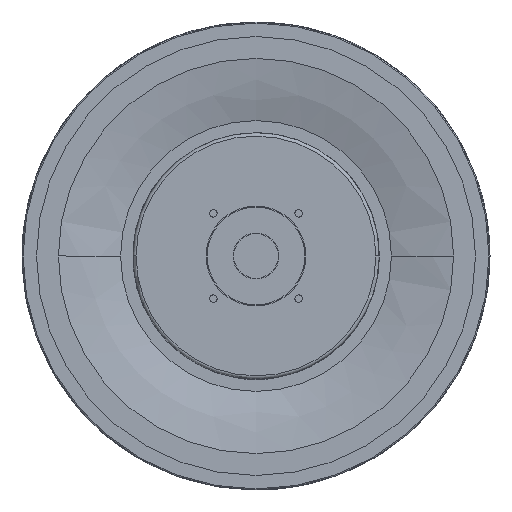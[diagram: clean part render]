
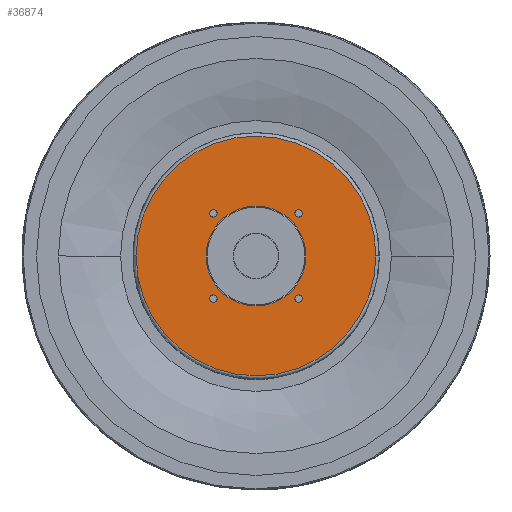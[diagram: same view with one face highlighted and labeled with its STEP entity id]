
A CAD part, front view. The second image highlights one B-rep face of the part: STEP entity #36874.
In plain terms, the highlighted planar face has unit normal (0, -1, 0).
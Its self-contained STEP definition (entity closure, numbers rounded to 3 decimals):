
#9046=CARTESIAN_POINT('',(0.,0.,0.));
#9047=DIRECTION('',(0.,-1.,0.));
#9048=DIRECTION('',(1.,0.,0.));
#9049=AXIS2_PLACEMENT_3D('',#9046,#9047,#9048);
#9056=CARTESIAN_POINT('',(0.,0.,0.));
#9057=DIRECTION('',(0.,-1.,0.));
#9058=DIRECTION('',(-1.,0.,0.));
#9059=AXIS2_PLACEMENT_3D('',#9056,#9057,#9058);
#9130=CARTESIAN_POINT('',(0.,0.,0.));
#9131=DIRECTION('',(0.,1.,0.));
#9132=DIRECTION('',(1.,0.,0.));
#9133=AXIS2_PLACEMENT_3D('',#9130,#9131,#9132);
#9135=CARTESIAN_POINT('',(0.,0.,0.));
#9136=DIRECTION('',(0.,1.,0.));
#9137=DIRECTION('',(-1.,0.,0.));
#9138=AXIS2_PLACEMENT_3D('',#9135,#9136,#9137);
#9140=CARTESIAN_POINT('',(-20.506,0.,-20.506));
#9141=DIRECTION('',(0.,-1.,0.));
#9142=DIRECTION('',(0.,0.,-1.));
#9143=AXIS2_PLACEMENT_3D('',#9140,#9141,#9142);
#9145=CARTESIAN_POINT('',(-20.506,0.,-20.506));
#9146=DIRECTION('',(0.,-1.,0.));
#9147=DIRECTION('',(0.,0.,1.));
#9148=AXIS2_PLACEMENT_3D('',#9145,#9146,#9147);
#9150=CARTESIAN_POINT('',(20.506,0.,-20.506));
#9151=DIRECTION('',(0.,-1.,0.));
#9152=DIRECTION('',(1.,0.,0.));
#9153=AXIS2_PLACEMENT_3D('',#9150,#9151,#9152);
#9155=CARTESIAN_POINT('',(20.506,0.,-20.506));
#9156=DIRECTION('',(0.,-1.,0.));
#9157=DIRECTION('',(-1.,0.,0.));
#9158=AXIS2_PLACEMENT_3D('',#9155,#9156,#9157);
#9160=CARTESIAN_POINT('',(20.506,0.,20.506));
#9161=DIRECTION('',(0.,-1.,0.));
#9162=DIRECTION('',(0.,0.,1.));
#9163=AXIS2_PLACEMENT_3D('',#9160,#9161,#9162);
#9165=CARTESIAN_POINT('',(20.506,0.,20.506));
#9166=DIRECTION('',(0.,-1.,0.));
#9167=DIRECTION('',(0.,0.,-1.));
#9168=AXIS2_PLACEMENT_3D('',#9165,#9166,#9167);
#9170=CARTESIAN_POINT('',(-20.506,0.,20.506));
#9171=DIRECTION('',(0.,-1.,0.));
#9172=DIRECTION('',(-1.,0.,0.));
#9173=AXIS2_PLACEMENT_3D('',#9170,#9171,#9172);
#9175=CARTESIAN_POINT('',(-20.506,0.,20.506));
#9176=DIRECTION('',(0.,-1.,0.));
#9177=DIRECTION('',(1.,0.,0.));
#9178=AXIS2_PLACEMENT_3D('',#9175,#9176,#9177);
#9180=CARTESIAN_POINT('',(0.,0.,0.));
#9181=DIRECTION('',(0.,-1.,0.));
#9182=DIRECTION('',(1.,0.,0.));
#9183=AXIS2_PLACEMENT_3D('',#9180,#9181,#9182);
#9185=CARTESIAN_POINT('',(0.,0.,0.));
#9186=DIRECTION('',(0.,-1.,0.));
#9187=DIRECTION('',(-1.,0.,0.));
#9188=AXIS2_PLACEMENT_3D('',#9185,#9186,#9187);
#13653=CARTESIAN_POINT('',(-22.306,0.,20.506));
#13654=VERTEX_POINT('',#13653);
#13659=CARTESIAN_POINT('',(-20.506,0.,-18.706));
#13660=VERTEX_POINT('',#13659);
#13661=CARTESIAN_POINT('',(-20.506,0.,-22.306));
#13662=VERTEX_POINT('',#13661);
#13663=CARTESIAN_POINT('',(57.632,0.,0.));
#13664=CARTESIAN_POINT('',(-57.632,0.,
-0.252));
#13665=VERTEX_POINT('',#13663);
#13666=VERTEX_POINT('',#13664);
#13667=CARTESIAN_POINT('',(-57.632,0.,
0.));
#13668=CARTESIAN_POINT('',(57.632,0.,
0.252));
#13669=VERTEX_POINT('',#13667);
#13670=VERTEX_POINT('',#13668);
#13671=CARTESIAN_POINT('',(22.306,0.,-20.506));
#13672=CARTESIAN_POINT('',(18.706,0.,-20.506));
#13673=VERTEX_POINT('',#13671);
#13674=VERTEX_POINT('',#13672);
#13675=CARTESIAN_POINT('',(20.506,0.,22.306));
#13676=CARTESIAN_POINT('',(20.506,0.,18.706));
#13677=VERTEX_POINT('',#13675);
#13678=VERTEX_POINT('',#13676);
#13679=CARTESIAN_POINT('',(-18.706,0.,20.506));
#13680=VERTEX_POINT('',#13679);
#13681=CARTESIAN_POINT('',(24.,0.,0.));
#13682=CARTESIAN_POINT('',(-24.,0.,0.));
#13683=VERTEX_POINT('',#13681);
#13684=VERTEX_POINT('',#13682);
#36833=CARTESIAN_POINT('',(0.,0.,0.));
#36834=DIRECTION('',(0.,1.,0.));
#36835=DIRECTION('',(-1.,0.,0.));
#36836=AXIS2_PLACEMENT_3D('',#36833,#36834,#36835);
#36837=PLANE('',#36836);
#36838=ORIENTED_EDGE('',*,*,#36205,.T.);
#36839=ORIENTED_EDGE('',*,*,#36203,.F.);
#36840=ORIENTED_EDGE('',*,*,#36182,.T.);
#36841=ORIENTED_EDGE('',*,*,#36180,.F.);
#36842=EDGE_LOOP('',(#36838,#36839,#36840,#36841));
#36843=FACE_OUTER_BOUND('',#36842,.F.);
#36845=ORIENTED_EDGE('',*,*,#36844,.T.);
#36847=ORIENTED_EDGE('',*,*,#36846,.T.);
#36848=EDGE_LOOP('',(#36845,#36847));
#36849=FACE_BOUND('',#36848,.F.);
#36851=ORIENTED_EDGE('',*,*,#36850,.T.);
#36853=ORIENTED_EDGE('',*,*,#36852,.T.);
#36854=EDGE_LOOP('',(#36851,#36853));
#36855=FACE_BOUND('',#36854,.F.);
#36857=ORIENTED_EDGE('',*,*,#36856,.T.);
#36859=ORIENTED_EDGE('',*,*,#36858,.T.);
#36860=EDGE_LOOP('',(#36857,#36859));
#36861=FACE_BOUND('',#36860,.F.);
#36863=ORIENTED_EDGE('',*,*,#36862,.T.);
#36865=ORIENTED_EDGE('',*,*,#36864,.T.);
#36866=EDGE_LOOP('',(#36863,#36865));
#36867=FACE_BOUND('',#36866,.F.);
#36869=ORIENTED_EDGE('',*,*,#36868,.T.);
#36871=ORIENTED_EDGE('',*,*,#36870,.T.);
#36872=EDGE_LOOP('',(#36869,#36871));
#36873=FACE_BOUND('',#36872,.F.);
#36874=ADVANCED_FACE('',(#36843,#36849,#36855,#36861,#36867,#36873),#36837,.F.);
#9050=CIRCLE('',#9049,57.632);
#9060=CIRCLE('',#9059,57.632);
#9134=CIRCLE('',#9133,57.632);
#9139=CIRCLE('',#9138,57.632);
#9144=CIRCLE('',#9143,1.8);
#9149=CIRCLE('',#9148,1.8);
#9154=CIRCLE('',#9153,1.8);
#9159=CIRCLE('',#9158,1.8);
#9164=CIRCLE('',#9163,1.8);
#9169=CIRCLE('',#9168,1.8);
#9174=CIRCLE('',#9173,1.8);
#9179=CIRCLE('',#9178,1.8);
#9184=CIRCLE('',#9183,24.);
#9189=CIRCLE('',#9188,24.);
#36180=EDGE_CURVE('',#13665,#13670,#9050,.T.);
#36182=EDGE_CURVE('',#13669,#13670,#9139,.T.);
#36203=EDGE_CURVE('',#13669,#13666,#9060,.T.);
#36205=EDGE_CURVE('',#13665,#13666,#9134,.T.);
#36844=EDGE_CURVE('',#13662,#13660,#9144,.T.);
#36846=EDGE_CURVE('',#13660,#13662,#9149,.T.);
#36850=EDGE_CURVE('',#13673,#13674,#9154,.T.);
#36852=EDGE_CURVE('',#13674,#13673,#9159,.T.);
#36856=EDGE_CURVE('',#13677,#13678,#9164,.T.);
#36858=EDGE_CURVE('',#13678,#13677,#9169,.T.);
#36862=EDGE_CURVE('',#13654,#13680,#9174,.T.);
#36864=EDGE_CURVE('',#13680,#13654,#9179,.T.);
#36868=EDGE_CURVE('',#13683,#13684,#9184,.T.);
#36870=EDGE_CURVE('',#13684,#13683,#9189,.T.);
